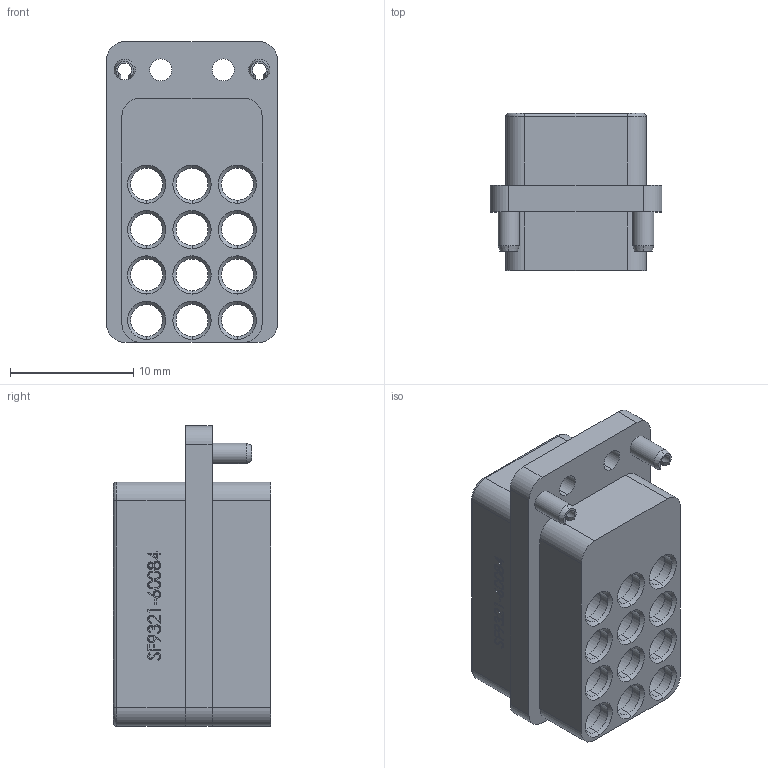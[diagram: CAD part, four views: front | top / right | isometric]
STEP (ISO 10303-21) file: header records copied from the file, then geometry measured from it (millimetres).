
FILE_DESCRIPTION (( 'STEP AP214' ), '1' );
FILE_NAME ('SF9321-60084.STEP', '2019-09-13T16:36:05', ( '' ), ( '' ), 'SwSTEP 2.0', 'SolidWorks 2018', '' );
FILE_SCHEMA (( 'AUTOMOTIVE_DESIGN' ));
Length unit declared in the file: inch
Products named in the file (3): SF9321-60084; 082-80-006; 071-93-077_WITH ENUMERATIONS
Assembly tree (3 placements, depth 2):
  SF9321-60084
    071-93-077_WITH ENUMERATIONS
    082-80-006  x2
Bounding box: 13.92 x 12.74 x 24.38 mm (x, y, z)
Volume: 1811.6 mm3; surface area: 2978.1 mm2
Topology: 3 solids, 3 shells, 749 faces, 1964 edges, 1288 vertices
Faces by surface type: plane 317, bspline 282, cylinder 92, cone 54, torus 4
Entity records: 45500 total; most frequent: CARTESIAN_POINT 21733, ORIENTED_EDGE 3870, DIRECTION 2509, EDGE_CURVE 1935, VERTEX_POINT 1270, VECTOR 1101, LINE 1101, EDGE_LOOP 835
